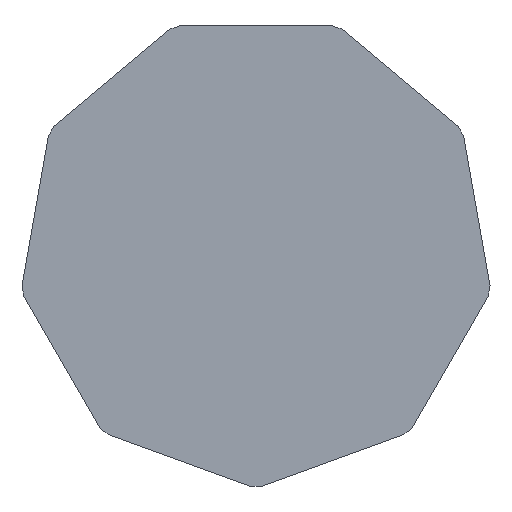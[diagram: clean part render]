
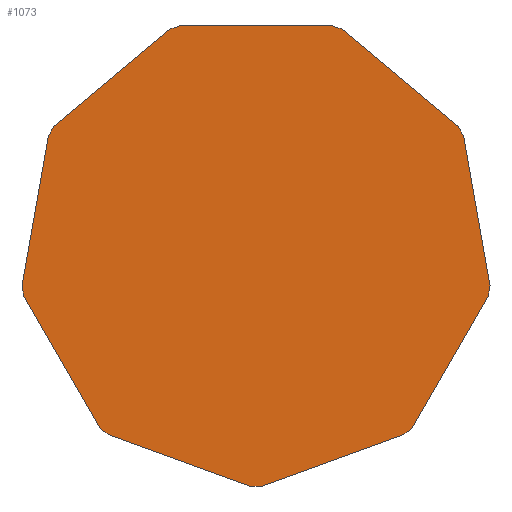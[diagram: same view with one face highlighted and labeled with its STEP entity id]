
A CAD part, front view. The second image highlights one B-rep face of the part: STEP entity #1073.
In plain terms, the highlighted planar face has unit normal (0, -1, 0).
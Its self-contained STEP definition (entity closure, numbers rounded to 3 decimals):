
#14 = LINE ( 'NONE', #27, #872 ) ;
#27 = CARTESIAN_POINT ( 'NONE',  ( -170.604, 0., -26.02 ) ) ;
#29 = CARTESIAN_POINT ( 'NONE',  ( -113.964, 0., -129.595 ) ) ;
#37 = ORIENTED_EDGE ( 'NONE', *, *, #230, .F. ) ;
#52 = VECTOR ( 'NONE', #975, 1000. ) ;
#72 = EDGE_CURVE ( 'NONE', #2203, #2166, #1859, .T. ) ;
#76 = CARTESIAN_POINT ( 'NONE',  ( 169.214, 0., -33.899 ) ) ;
#89 = CARTESIAN_POINT ( 'NONE',  ( 113.964, 0., -129.595 ) ) ;
#92 = VECTOR ( 'NONE', #2099, 1000. ) ;
#96 = VERTEX_POINT ( 'NONE', #1363 ) ;
#101 = DIRECTION ( 'NONE',  ( -0.5, 0., -0.866 ) ) ;
#117 = DIRECTION ( 'NONE',  ( 0.5, 0., 0.866 ) ) ;
#121 = LINE ( 'NONE', #1461, #909 ) ;
#147 = DIRECTION ( 'NONE',  ( -0.766, 0., -0.643 ) ) ;
#197 = VECTOR ( 'NONE', #2403, 1000. ) ;
#199 = VECTOR ( 'NONE', #1625, 1000. ) ;
#229 = LINE ( 'NONE', #1939, #52 ) ;
#230 = EDGE_CURVE ( 'NONE', #2166, #529, #656, .T. ) ;
#232 = VERTEX_POINT ( 'NONE', #1837 ) ;
#261 = DIRECTION ( 'NONE',  ( -0.5, 0., 0.866 ) ) ;
#297 = CARTESIAN_POINT ( 'NONE',  ( -169.214, 0., -33.899 ) ) ;
#317 = VECTOR ( 'NONE', #261, 1000. ) ;
#341 = CARTESIAN_POINT ( 'NONE',  ( 55.25, 0., 163.493 ) ) ;
#351 = CARTESIAN_POINT ( 'NONE',  ( 147.415, 0., 89.729 ) ) ;
#380 = ORIENTED_EDGE ( 'NONE', *, *, #1241, .F. ) ;
#420 = VERTEX_POINT ( 'NONE', #1905 ) ;
#431 = VECTOR ( 'NONE', #2159, 1000. ) ;
#433 = FACE_OUTER_BOUND ( 'NONE', #1383, .T. ) ;
#443 = ORIENTED_EDGE ( 'NONE', *, *, #1139, .F. ) ;
#493 = LINE ( 'NONE', #2212, #1614 ) ;
#511 = DIRECTION ( 'NONE',  ( -0.766, 0., 0.643 ) ) ;
#529 = VERTEX_POINT ( 'NONE', #566 ) ;
#530 = ORIENTED_EDGE ( 'NONE', *, *, #2037, .F. ) ;
#541 = VERTEX_POINT ( 'NONE', #29 ) ;
#552 = LINE ( 'NONE', #1474, #793 ) ;
#566 = CARTESIAN_POINT ( 'NONE',  ( -4., 0., -172.53 ) ) ;
#585 = CARTESIAN_POINT ( 'NONE',  ( -151.415, 0., 82.801 ) ) ;
#587 = DIRECTION ( 'NONE',  ( 0., 1., 0. ) ) ;
#636 = VERTEX_POINT ( 'NONE', #1581 ) ;
#639 = VERTEX_POINT ( 'NONE', #1163 ) ;
#649 = VERTEX_POINT ( 'NONE', #1728 ) ;
#656 = LINE ( 'NONE', #1407, #1843 ) ;
#672 = EDGE_CURVE ( 'NONE', #541, #2222, #807, .T. ) ;
#680 = ORIENTED_EDGE ( 'NONE', *, *, #1526, .F. ) ;
#691 = CARTESIAN_POINT ( 'NONE',  ( -55.25, 0., 163.493 ) ) ;
#692 = DIRECTION ( 'NONE',  ( -0.94, 0., 0.342 ) ) ;
#709 = VECTOR ( 'NONE', #1405, 1000. ) ;
#739 = LINE ( 'NONE', #916, #92 ) ;
#749 = EDGE_CURVE ( 'NONE', #96, #1182, #1028, .T. ) ;
#762 = EDGE_CURVE ( 'NONE', #2086, #232, #1592, .T. ) ;
#769 = ORIENTED_EDGE ( 'NONE', *, *, #1353, .F. ) ;
#793 = VECTOR ( 'NONE', #2224, 1000. ) ;
#807 = LINE ( 'NONE', #1553, #317 ) ;
#872 = VECTOR ( 'NONE', #1849, 1000. ) ;
#897 = ORIENTED_EDGE ( 'NONE', *, *, #1994, .F. ) ;
#905 = LINE ( 'NONE', #351, #1449 ) ;
#909 = VECTOR ( 'NONE', #692, 1000. ) ;
#916 = CARTESIAN_POINT ( 'NONE',  ( 55.25, 0., 163.493 ) ) ;
#922 = CARTESIAN_POINT ( 'NONE',  ( 107.836, 0., -134.737 ) ) ;
#975 = DIRECTION ( 'NONE',  ( -0.174, 0., 0.985 ) ) ;
#987 = ORIENTED_EDGE ( 'NONE', *, *, #1619, .F. ) ;
#1028 = LINE ( 'NONE', #691, #431 ) ;
#1030 = LINE ( 'NONE', #76, #1650 ) ;
#1041 = CARTESIAN_POINT ( 'NONE',  ( 62.768, 0., 160.757 ) ) ;
#1073 = ADVANCED_FACE ( 'NONE', ( #433 ), #2276, .F. ) ;
#1075 = EDGE_CURVE ( 'NONE', #2222, #636, #229, .T. ) ;
#1080 = CARTESIAN_POINT ( 'NONE',  ( 113.964, 0., -129.595 ) ) ;
#1139 = EDGE_CURVE ( 'NONE', #1618, #639, #905, .T. ) ;
#1145 = VECTOR ( 'NONE', #1335, 1000. ) ;
#1160 = ORIENTED_EDGE ( 'NONE', *, *, #1676, .F. ) ;
#1163 = CARTESIAN_POINT ( 'NONE',  ( 151.415, 0., 82.801 ) ) ;
#1182 = VERTEX_POINT ( 'NONE', #341 ) ;
#1200 = ORIENTED_EDGE ( 'NONE', *, *, #72, .F. ) ;
#1241 = EDGE_CURVE ( 'NONE', #1412, #2203, #1264, .T. ) ;
#1264 = LINE ( 'NONE', #1080, #1533 ) ;
#1335 = DIRECTION ( 'NONE',  ( 0.174, 0., -0.985 ) ) ;
#1353 = EDGE_CURVE ( 'NONE', #639, #2016, #1530, .T. ) ;
#1363 = CARTESIAN_POINT ( 'NONE',  ( -55.25, 0., 163.493 ) ) ;
#1383 = EDGE_LOOP ( 'NONE', ( #1715, #1997, #1431, #897, #2173, #2189, #2326, #530, #987, #37, #1200, #380, #680, #2218, #769, #443, #1476, #1160 ) ) ;
#1405 = DIRECTION ( 'NONE',  ( 0.766, 0., -0.643 ) ) ;
#1407 = CARTESIAN_POINT ( 'NONE',  ( 4., 0., -172.53 ) ) ;
#1412 = VERTEX_POINT ( 'NONE', #89 ) ;
#1425 = CARTESIAN_POINT ( 'NONE',  ( 170.604, 0., -26.02 ) ) ;
#1431 = ORIENTED_EDGE ( 'NONE', *, *, #762, .F. ) ;
#1446 = LINE ( 'NONE', #2179, #1653 ) ;
#1449 = VECTOR ( 'NONE', #1819, 1000. ) ;
#1461 = CARTESIAN_POINT ( 'NONE',  ( -4., 0., -172.53 ) ) ;
#1462 = EDGE_CURVE ( 'NONE', #649, #1618, #1582, .T. ) ;
#1474 = CARTESIAN_POINT ( 'NONE',  ( -62.768, 0., 160.757 ) ) ;
#1476 = ORIENTED_EDGE ( 'NONE', *, *, #1462, .F. ) ;
#1514 = VERTEX_POINT ( 'NONE', #2140 ) ;
#1526 = EDGE_CURVE ( 'NONE', #1514, #1412, #1030, .T. ) ;
#1530 = LINE ( 'NONE', #1894, #1145 ) ;
#1533 = VECTOR ( 'NONE', #147, 1000. ) ;
#1546 = EDGE_CURVE ( 'NONE', #2016, #1514, #493, .T. ) ;
#1553 = CARTESIAN_POINT ( 'NONE',  ( -113.964, 0., -129.595 ) ) ;
#1581 = CARTESIAN_POINT ( 'NONE',  ( -170.604, 0., -26.02 ) ) ;
#1582 = LINE ( 'NONE', #1041, #709 ) ;
#1592 = LINE ( 'NONE', #2340, #199 ) ;
#1614 = VECTOR ( 'NONE', #1791, 1000. ) ;
#1618 = VERTEX_POINT ( 'NONE', #1801 ) ;
#1619 = EDGE_CURVE ( 'NONE', #529, #420, #121, .T. ) ;
#1625 = DIRECTION ( 'NONE',  ( 0.766, 0., 0.643 ) ) ;
#1650 = VECTOR ( 'NONE', #101, 1000. ) ;
#1653 = VECTOR ( 'NONE', #511, 1000. ) ;
#1676 = EDGE_CURVE ( 'NONE', #1182, #649, #739, .T. ) ;
#1683 = CARTESIAN_POINT ( 'NONE',  ( -147.415, 0., 89.729 ) ) ;
#1692 = AXIS2_PLACEMENT_3D ( 'NONE', #1924, #587, #1912 ) ;
#1701 = CARTESIAN_POINT ( 'NONE',  ( 4., 0., -172.53 ) ) ;
#1711 = EDGE_CURVE ( 'NONE', #636, #2285, #14, .T. ) ;
#1715 = ORIENTED_EDGE ( 'NONE', *, *, #749, .F. ) ;
#1728 = CARTESIAN_POINT ( 'NONE',  ( 62.768, 0., 160.757 ) ) ;
#1756 = EDGE_CURVE ( 'NONE', #232, #96, #552, .T. ) ;
#1791 = DIRECTION ( 'NONE',  ( -0.174, 0., -0.985 ) ) ;
#1797 = LINE ( 'NONE', #2197, #1937 ) ;
#1801 = CARTESIAN_POINT ( 'NONE',  ( 147.415, 0., 89.729 ) ) ;
#1819 = DIRECTION ( 'NONE',  ( 0.5, 0., -0.866 ) ) ;
#1837 = CARTESIAN_POINT ( 'NONE',  ( -62.768, 0., 160.757 ) ) ;
#1843 = VECTOR ( 'NONE', #2027, 1000. ) ;
#1849 = DIRECTION ( 'NONE',  ( 0.174, 0., 0.985 ) ) ;
#1859 = LINE ( 'NONE', #922, #197 ) ;
#1894 = CARTESIAN_POINT ( 'NONE',  ( 151.415, 0., 82.801 ) ) ;
#1905 = CARTESIAN_POINT ( 'NONE',  ( -107.836, 0., -134.737 ) ) ;
#1912 = DIRECTION ( 'NONE',  ( 0., 0., 1. ) ) ;
#1924 = CARTESIAN_POINT ( 'NONE',  ( 0., 0., 0. ) ) ;
#1937 = VECTOR ( 'NONE', #117, 1000. ) ;
#1939 = CARTESIAN_POINT ( 'NONE',  ( -169.214, 0., -33.899 ) ) ;
#1994 = EDGE_CURVE ( 'NONE', #2285, #2086, #1797, .T. ) ;
#1997 = ORIENTED_EDGE ( 'NONE', *, *, #1756, .F. ) ;
#2016 = VERTEX_POINT ( 'NONE', #1425 ) ;
#2027 = DIRECTION ( 'NONE',  ( -1., 0., 0. ) ) ;
#2037 = EDGE_CURVE ( 'NONE', #420, #541, #1446, .T. ) ;
#2058 = CARTESIAN_POINT ( 'NONE',  ( 107.836, 0., -134.737 ) ) ;
#2086 = VERTEX_POINT ( 'NONE', #1683 ) ;
#2099 = DIRECTION ( 'NONE',  ( 0.94, 0., -0.342 ) ) ;
#2140 = CARTESIAN_POINT ( 'NONE',  ( 169.214, 0., -33.899 ) ) ;
#2159 = DIRECTION ( 'NONE',  ( 1., 0., 0. ) ) ;
#2166 = VERTEX_POINT ( 'NONE', #1701 ) ;
#2173 = ORIENTED_EDGE ( 'NONE', *, *, #1711, .F. ) ;
#2179 = CARTESIAN_POINT ( 'NONE',  ( -107.836, 0., -134.737 ) ) ;
#2189 = ORIENTED_EDGE ( 'NONE', *, *, #1075, .F. ) ;
#2197 = CARTESIAN_POINT ( 'NONE',  ( -151.415, 0., 82.801 ) ) ;
#2203 = VERTEX_POINT ( 'NONE', #2058 ) ;
#2212 = CARTESIAN_POINT ( 'NONE',  ( 170.604, 0., -26.02 ) ) ;
#2218 = ORIENTED_EDGE ( 'NONE', *, *, #1546, .F. ) ;
#2222 = VERTEX_POINT ( 'NONE', #297 ) ;
#2224 = DIRECTION ( 'NONE',  ( 0.94, 0., 0.342 ) ) ;
#2276 = PLANE ( 'NONE',  #1692 ) ;
#2285 = VERTEX_POINT ( 'NONE', #585 ) ;
#2326 = ORIENTED_EDGE ( 'NONE', *, *, #672, .F. ) ;
#2340 = CARTESIAN_POINT ( 'NONE',  ( -147.415, 0., 89.729 ) ) ;
#2403 = DIRECTION ( 'NONE',  ( -0.94, 0., -0.342 ) ) ;
